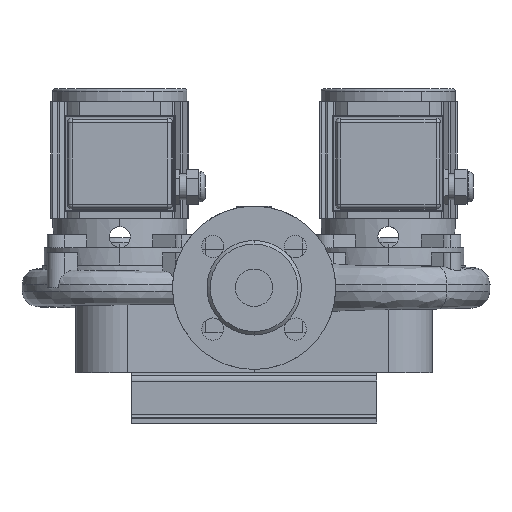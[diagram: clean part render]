
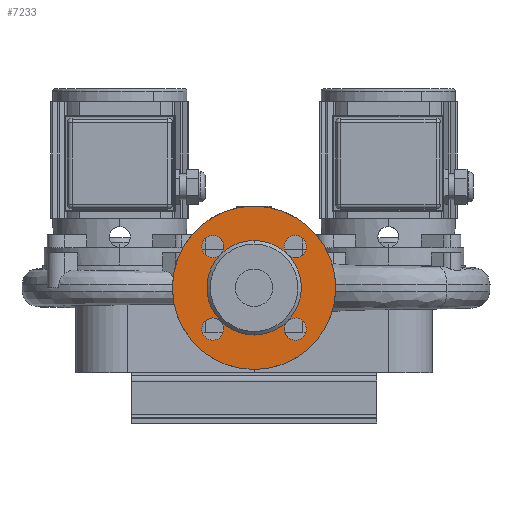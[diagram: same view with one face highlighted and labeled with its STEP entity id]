
A CAD part, front view. The second image highlights one B-rep face of the part: STEP entity #7233.
In plain terms, the highlighted planar face has unit normal (0, -1, 0) as drawn and (0, 1, 0) by its records, which use the part's own axes.
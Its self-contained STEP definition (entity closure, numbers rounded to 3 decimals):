
#7233=ADVANCED_FACE('',(#14296,#14297),#14298,.T.);
#7293=EDGE_CURVE('',#14393,#14394,#14395,.T.);
#7295=EDGE_CURVE('',#14397,#14393,#14398,.T.);
#7297=EDGE_CURVE('',#14400,#14397,#14401,.T.);
#7301=EDGE_CURVE('',#14407,#14408,#14409,.T.);
#7305=EDGE_CURVE('',#14415,#14416,#14417,.T.);
#7309=EDGE_CURVE('',#14423,#14424,#14425,.T.);
#7313=EDGE_CURVE('',#14431,#14432,#14433,.T.);
#7317=EDGE_CURVE('',#14439,#14440,#14441,.T.);
#7513=EDGE_CURVE('',#14440,#14439,#14736,.T.);
#7517=EDGE_CURVE('',#14397,#14431,#14740,.T.);
#7519=EDGE_CURVE('',#14432,#14397,#14742,.T.);
#7521=EDGE_CURVE('',#14393,#14423,#14744,.T.);
#7523=EDGE_CURVE('',#14424,#14393,#14746,.T.);
#7525=EDGE_CURVE('',#14748,#14415,#14749,.T.);
#7527=EDGE_CURVE('',#14416,#14748,#14751,.T.);
#7529=EDGE_CURVE('',#14753,#14407,#14754,.T.);
#7531=EDGE_CURVE('',#14408,#14753,#14756,.T.);
#7533=EDGE_CURVE('',#14394,#14748,#14758,.T.);
#7535=EDGE_CURVE('',#14748,#14753,#14760,.T.);
#7537=EDGE_CURVE('',#14753,#14400,#14762,.T.);
#14296=FACE_OUTER_BOUND('',#26242,.T.);
#14297=FACE_BOUND('',#26243,.T.);
#14298=PLANE('',#26244);
#14393=VERTEX_POINT('',#27147);
#14394=VERTEX_POINT('',#27148);
#14395=CIRCLE('',#27149,40.5);
#14397=VERTEX_POINT('',#27152);
#14398=CIRCLE('',#27153,40.5);
#14400=VERTEX_POINT('',#27156);
#14401=CIRCLE('',#27157,40.5);
#14407=VERTEX_POINT('',#27165);
#14408=VERTEX_POINT('',#27166);
#14409=CIRCLE('',#27167,9.5);
#14415=VERTEX_POINT('',#27175);
#14416=VERTEX_POINT('',#27176);
#14417=CIRCLE('',#27177,9.5);
#14423=VERTEX_POINT('',#27185);
#14424=VERTEX_POINT('',#27186);
#14425=CIRCLE('',#27187,9.5);
#14431=VERTEX_POINT('',#27195);
#14432=VERTEX_POINT('',#27196);
#14433=CIRCLE('',#27197,9.5);
#14439=VERTEX_POINT('',#27205);
#14440=VERTEX_POINT('',#27206);
#14441=CIRCLE('',#27207,70.0);
#14736=CIRCLE('',#27709,70.0);
#14740=CIRCLE('',#27715,9.5);
#14742=CIRCLE('',#27718,9.5);
#14744=CIRCLE('',#27721,9.5);
#14746=CIRCLE('',#27724,9.5);
#14748=VERTEX_POINT('',#27727);
#14749=CIRCLE('',#27728,9.5);
#14751=CIRCLE('',#27731,9.5);
#14753=VERTEX_POINT('',#27734);
#14754=CIRCLE('',#27735,9.5);
#14756=CIRCLE('',#27738,9.5);
#14758=CIRCLE('',#27741,40.5);
#14760=CIRCLE('',#27744,40.5);
#14762=CIRCLE('',#27747,40.5);
#26242=EDGE_LOOP('',(#38880,#38881));
#26243=EDGE_LOOP('',(#38882,#38883,#38884,#38885,#38886,#38887,#38888,#38889,#38890,#38891,#38892,#38893,#38894,#38895,#38896,#38897,#38898,#38899));
#26244=AXIS2_PLACEMENT_3D('',#38900,#38901,#38902);
#27147=CARTESIAN_POINT('',(28.638,107.0,28.638));
#27148=CARTESIAN_POINT('',(0.,107.0,40.5));
#27149=AXIS2_PLACEMENT_3D('',#39145,#39146,#39147);
#27152=CARTESIAN_POINT('',(28.638,107.0,-28.638));
#27153=AXIS2_PLACEMENT_3D('',#39148,#39149,#39150);
#27156=CARTESIAN_POINT('',(0.,107.0,-40.5));
#27157=AXIS2_PLACEMENT_3D('',#39151,#39152,#39153);
#27165=CARTESIAN_POINT('',(-40.714,107.0,-27.511));
#27166=CARTESIAN_POINT('',(-29.996,107.0,-43.2));
#27167=AXIS2_PLACEMENT_3D('',#39157,#39158,#39159);
#27175=CARTESIAN_POINT('',(-27.511,107.,40.714));
#27176=CARTESIAN_POINT('',(-43.2,107.,29.996));
#27177=AXIS2_PLACEMENT_3D('',#39163,#39164,#39165);
#27185=CARTESIAN_POINT('',(40.714,107.,27.511));
#27186=CARTESIAN_POINT('',(29.996,107.,43.2));
#27187=AXIS2_PLACEMENT_3D('',#39169,#39170,#39171);
#27195=CARTESIAN_POINT('',(27.511,107.0,-40.714));
#27196=CARTESIAN_POINT('',(43.2,107.0,-29.996));
#27197=AXIS2_PLACEMENT_3D('',#39175,#39176,#39177);
#27205=CARTESIAN_POINT('',(0.,107.0,-70.0));
#27206=CARTESIAN_POINT('',(0.,107.0,70.0));
#27207=AXIS2_PLACEMENT_3D('',#39181,#39182,#39183);
#27709=AXIS2_PLACEMENT_3D('',#39411,#39412,#39413);
#27715=AXIS2_PLACEMENT_3D('',#39417,#39418,#39419);
#27718=AXIS2_PLACEMENT_3D('',#39420,#39421,#39422);
#27721=AXIS2_PLACEMENT_3D('',#39423,#39424,#39425);
#27724=AXIS2_PLACEMENT_3D('',#39426,#39427,#39428);
#27727=CARTESIAN_POINT('',(-28.638,107.0,28.638));
#27728=AXIS2_PLACEMENT_3D('',#39429,#39430,#39431);
#27731=AXIS2_PLACEMENT_3D('',#39432,#39433,#39434);
#27734=CARTESIAN_POINT('',(-28.638,107.0,-28.638));
#27735=AXIS2_PLACEMENT_3D('',#39435,#39436,#39437);
#27738=AXIS2_PLACEMENT_3D('',#39438,#39439,#39440);
#27741=AXIS2_PLACEMENT_3D('',#39441,#39442,#39443);
#27744=AXIS2_PLACEMENT_3D('',#39444,#39445,#39446);
#27747=AXIS2_PLACEMENT_3D('',#39447,#39448,#39449);
#38880=ORIENTED_EDGE('',*,*,#7513,.F.);
#38881=ORIENTED_EDGE('',*,*,#7317,.F.);
#38882=ORIENTED_EDGE('',*,*,#7293,.T.);
#38883=ORIENTED_EDGE('',*,*,#7533,.T.);
#38884=ORIENTED_EDGE('',*,*,#7525,.T.);
#38885=ORIENTED_EDGE('',*,*,#7305,.T.);
#38886=ORIENTED_EDGE('',*,*,#7527,.T.);
#38887=ORIENTED_EDGE('',*,*,#7535,.T.);
#38888=ORIENTED_EDGE('',*,*,#7529,.T.);
#38889=ORIENTED_EDGE('',*,*,#7301,.T.);
#38890=ORIENTED_EDGE('',*,*,#7531,.T.);
#38891=ORIENTED_EDGE('',*,*,#7537,.T.);
#38892=ORIENTED_EDGE('',*,*,#7297,.T.);
#38893=ORIENTED_EDGE('',*,*,#7517,.T.);
#38894=ORIENTED_EDGE('',*,*,#7313,.T.);
#38895=ORIENTED_EDGE('',*,*,#7519,.T.);
#38896=ORIENTED_EDGE('',*,*,#7295,.T.);
#38897=ORIENTED_EDGE('',*,*,#7521,.T.);
#38898=ORIENTED_EDGE('',*,*,#7309,.T.);
#38899=ORIENTED_EDGE('',*,*,#7523,.T.);
#38900=CARTESIAN_POINT('',(0.,107.0,-55.25));
#38901=DIRECTION('',(0.0,1.0,0.0));
#38902=DIRECTION('',(0.0,0.0,1.0));
#39145=CARTESIAN_POINT('',(0.,107.0,0.));
#39146=DIRECTION('',(0.0,-1.0,0.0));
#39147=DIRECTION('',(0.0,0.0,-1.0));
#39148=CARTESIAN_POINT('',(0.,107.0,0.));
#39149=DIRECTION('',(0.0,-1.0,0.0));
#39150=DIRECTION('',(0.0,0.0,-1.0));
#39151=CARTESIAN_POINT('',(0.,107.0,0.));
#39152=DIRECTION('',(0.0,-1.0,0.0));
#39153=DIRECTION('',(0.0,0.0,-1.0));
#39157=CARTESIAN_POINT('',(-35.355,107.0,-35.355));
#39158=DIRECTION('',(0.0,-1.0,0.0));
#39159=DIRECTION('',(-0.564,0.0,0.826));
#39163=CARTESIAN_POINT('',(-35.355,107.,35.355));
#39164=DIRECTION('',(0.0,-1.0,0.0));
#39165=DIRECTION('',(0.826,0.0,0.564));
#39169=CARTESIAN_POINT('',(35.355,107.,35.355));
#39170=DIRECTION('',(0.0,-1.0,0.0));
#39171=DIRECTION('',(0.564,0.0,-0.826));
#39175=CARTESIAN_POINT('',(35.355,107.0,-35.355));
#39176=DIRECTION('',(0.0,-1.0,-0.0));
#39177=DIRECTION('',(-0.826,0.0,-0.564));
#39181=CARTESIAN_POINT('',(0.,107.0,0.));
#39182=DIRECTION('',(0.0,-1.0,0.0));
#39183=DIRECTION('',(0.0,0.0,-1.0));
#39411=CARTESIAN_POINT('',(0.,107.0,0.));
#39412=DIRECTION('',(0.0,-1.0,0.0));
#39413=DIRECTION('',(0.0,0.0,-1.0));
#39417=CARTESIAN_POINT('',(35.355,107.0,-35.355));
#39418=DIRECTION('',(0.0,-1.0,-0.0));
#39419=DIRECTION('',(-0.826,0.0,-0.564));
#39420=CARTESIAN_POINT('',(35.355,107.0,-35.355));
#39421=DIRECTION('',(0.0,-1.0,-0.0));
#39422=DIRECTION('',(-0.826,0.0,-0.564));
#39423=CARTESIAN_POINT('',(35.355,107.,35.355));
#39424=DIRECTION('',(0.0,-1.0,0.0));
#39425=DIRECTION('',(0.564,0.0,-0.826));
#39426=CARTESIAN_POINT('',(35.355,107.,35.355));
#39427=DIRECTION('',(0.0,-1.0,0.0));
#39428=DIRECTION('',(0.564,0.0,-0.826));
#39429=CARTESIAN_POINT('',(-35.355,107.,35.355));
#39430=DIRECTION('',(0.0,-1.0,0.0));
#39431=DIRECTION('',(0.826,0.0,0.564));
#39432=CARTESIAN_POINT('',(-35.355,107.,35.355));
#39433=DIRECTION('',(0.0,-1.0,0.0));
#39434=DIRECTION('',(0.826,0.0,0.564));
#39435=CARTESIAN_POINT('',(-35.355,107.0,-35.355));
#39436=DIRECTION('',(0.0,-1.0,0.0));
#39437=DIRECTION('',(-0.564,0.0,0.826));
#39438=CARTESIAN_POINT('',(-35.355,107.0,-35.355));
#39439=DIRECTION('',(0.0,-1.0,0.0));
#39440=DIRECTION('',(-0.564,0.0,0.826));
#39441=CARTESIAN_POINT('',(0.,107.0,0.));
#39442=DIRECTION('',(0.0,-1.0,0.0));
#39443=DIRECTION('',(0.0,0.0,-1.0));
#39444=CARTESIAN_POINT('',(0.,107.0,0.));
#39445=DIRECTION('',(0.0,-1.0,0.0));
#39446=DIRECTION('',(0.0,0.0,-1.0));
#39447=CARTESIAN_POINT('',(0.,107.0,0.));
#39448=DIRECTION('',(0.0,-1.0,0.0));
#39449=DIRECTION('',(0.0,0.0,-1.0));
